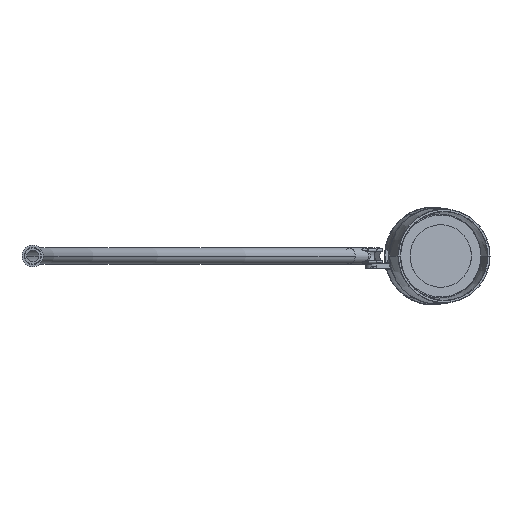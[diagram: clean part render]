
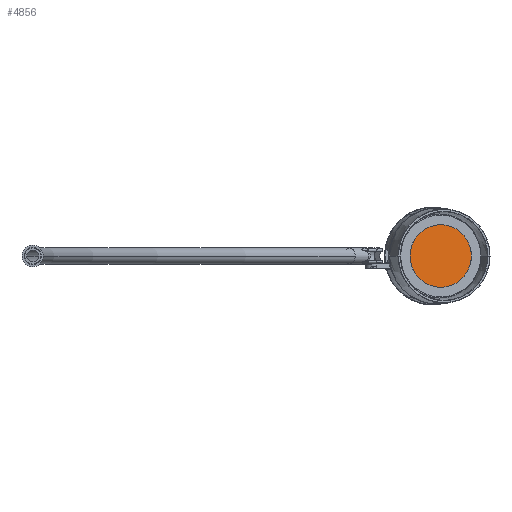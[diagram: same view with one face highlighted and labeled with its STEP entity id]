
A CAD part, front view. The second image highlights one B-rep face of the part: STEP entity #4856.
In plain terms, the highlighted planar face has unit normal (0.202, -0.98, 0).
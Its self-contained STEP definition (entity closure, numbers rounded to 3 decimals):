
#4803=CARTESIAN_POINT('',(401.,3239.287,-49.539));
#4804=DIRECTION('',(-0.201,0.979,0.));
#4805=DIRECTION('',(0.,0.,1.));
#4806=AXIS2_PLACEMENT_3D('',#4803,#4804,#4805);
#4808=CARTESIAN_POINT('',(401.,3239.287,-49.539));
#4809=DIRECTION('',(-0.201,0.979,0.));
#4810=DIRECTION('',(0.,0.,-1.));
#4811=AXIS2_PLACEMENT_3D('',#4808,#4809,#4810);
#4841=CARTESIAN_POINT('',(401.,3239.287,-78.789));
#4842=CARTESIAN_POINT('',(401.,3239.287,-20.289));
#4843=VERTEX_POINT('',#4841);
#4844=VERTEX_POINT('',#4842);
#4845=CARTESIAN_POINT('',(401.,3239.287,-49.539));
#4846=DIRECTION('',(-0.201,0.979,0.));
#4847=DIRECTION('',(0.979,0.201,0.));
#4848=AXIS2_PLACEMENT_3D('',#4845,#4846,#4847);
#4849=PLANE('',#4848);
#4851=ORIENTED_EDGE('',*,*,#4850,.T.);
#4853=ORIENTED_EDGE('',*,*,#4852,.T.);
#4854=EDGE_LOOP('',(#4851,#4853));
#4855=FACE_OUTER_BOUND('',#4854,.F.);
#4856=ADVANCED_FACE('',(#4855),#4849,.F.);
#4807=CIRCLE('',#4806,29.25);
#4812=CIRCLE('',#4811,29.25);
#4850=EDGE_CURVE('',#4844,#4843,#4807,.T.);
#4852=EDGE_CURVE('',#4843,#4844,#4812,.T.);
